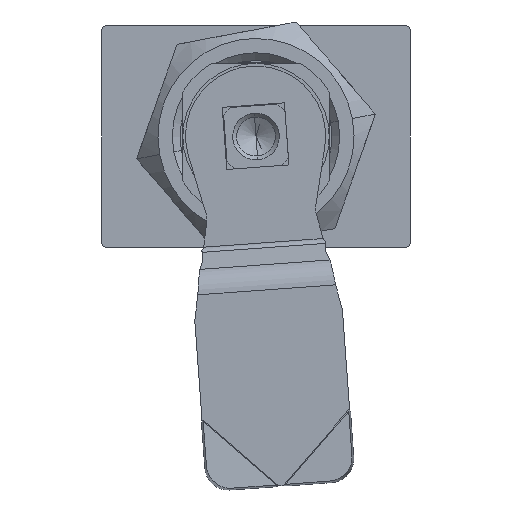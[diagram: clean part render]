
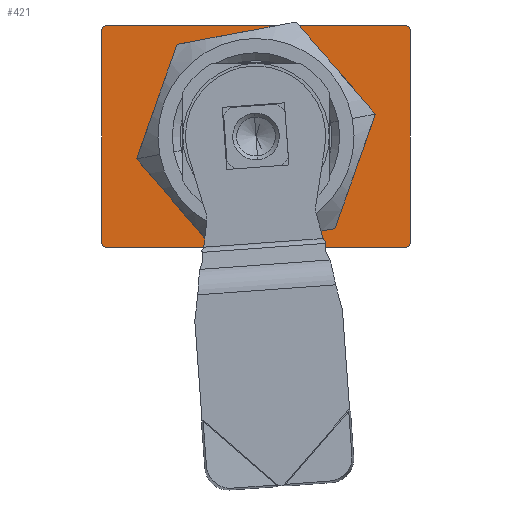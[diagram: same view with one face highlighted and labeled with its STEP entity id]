
A CAD part, front view. The second image highlights one B-rep face of the part: STEP entity #421.
In plain terms, the highlighted planar face has unit normal (0, -1, 0).
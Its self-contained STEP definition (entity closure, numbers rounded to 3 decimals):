
#401 = EDGE_CURVE ( 'NONE', #2526, #2489, #2646, .T. ) ;
#421 = ADVANCED_FACE ( 'NONE', ( #2677, #2671 ), #2670, .F. ) ;
#422 = EDGE_LOOP ( 'NONE', ( #423, #424, #425, #426, #427, #428, #429, #430 ) ) ;
#423 = ORIENTED_EDGE ( 'NONE', *, *, #2525, .F. ) ;
#424 = ORIENTED_EDGE ( 'NONE', *, *, #436, .F. ) ;
#425 = ORIENTED_EDGE ( 'NONE', *, *, #2450, .F. ) ;
#426 = ORIENTED_EDGE ( 'NONE', *, *, #450, .F. ) ;
#427 = ORIENTED_EDGE ( 'NONE', *, *, #2463, .F. ) ;
#428 = ORIENTED_EDGE ( 'NONE', *, *, #444, .F. ) ;
#429 = ORIENTED_EDGE ( 'NONE', *, *, #2518, .F. ) ;
#430 = ORIENTED_EDGE ( 'NONE', *, *, #441, .F. ) ;
#431 = EDGE_LOOP ( 'NONE', ( #491, #492, #493, #494, #495, #496, #497, #498 ) ) ;
#436 = EDGE_CURVE ( 'NONE', #2451, #2448, #2727, .T. ) ;
#441 = EDGE_CURVE ( 'NONE', #2499, #2516, #2722, .T. ) ;
#444 = EDGE_CURVE ( 'NONE', #2519, #2409, #2713, .T. ) ;
#450 = EDGE_CURVE ( 'NONE', #2464, #2475, #2708, .T. ) ;
#491 = ORIENTED_EDGE ( 'NONE', *, *, #2600, .F. ) ;
#492 = ORIENTED_EDGE ( 'NONE', *, *, #2590, .F. ) ;
#493 = ORIENTED_EDGE ( 'NONE', *, *, #2532, .F. ) ;
#494 = ORIENTED_EDGE ( 'NONE', *, *, #2548, .F. ) ;
#495 = ORIENTED_EDGE ( 'NONE', *, *, #2565, .F. ) ;
#496 = ORIENTED_EDGE ( 'NONE', *, *, #2555, .F. ) ;
#497 = ORIENTED_EDGE ( 'NONE', *, *, #2491, .F. ) ;
#498 = ORIENTED_EDGE ( 'NONE', *, *, #401, .F. ) ;
#2409 = VERTEX_POINT ( 'NONE', #7072 ) ;
#2448 = VERTEX_POINT ( 'NONE', #7150 ) ;
#2450 = EDGE_CURVE ( 'NONE', #2475, #2451, #7149, .T. ) ;
#2451 = VERTEX_POINT ( 'NONE', #7144 ) ;
#2463 = EDGE_CURVE ( 'NONE', #2409, #2464, #7184, .T. ) ;
#2464 = VERTEX_POINT ( 'NONE', #7179 ) ;
#2475 = VERTEX_POINT ( 'NONE', #7160 ) ;
#2489 = VERTEX_POINT ( 'NONE', #7265 ) ;
#2491 = EDGE_CURVE ( 'NONE', #2489, #2492, #7264, .T. ) ;
#2492 = VERTEX_POINT ( 'NONE', #7260 ) ;
#2499 = VERTEX_POINT ( 'NONE', #7286 ) ;
#2516 = VERTEX_POINT ( 'NONE', #7339 ) ;
#2518 = EDGE_CURVE ( 'NONE', #2516, #2519, #7338, .T. ) ;
#2519 = VERTEX_POINT ( 'NONE', #7333 ) ;
#2525 = EDGE_CURVE ( 'NONE', #2448, #2499, #7327, .T. ) ;
#2526 = VERTEX_POINT ( 'NONE', #7317 ) ;
#2532 = EDGE_CURVE ( 'NONE', #2549, #2533, #7371, .T. ) ;
#2533 = VERTEX_POINT ( 'NONE', #7367 ) ;
#2548 = EDGE_CURVE ( 'NONE', #2566, #2549, #7350, .T. ) ;
#2549 = VERTEX_POINT ( 'NONE', #7345 ) ;
#2555 = EDGE_CURVE ( 'NONE', #2492, #2556, #7398, .T. ) ;
#2556 = VERTEX_POINT ( 'NONE', #7393 ) ;
#2565 = EDGE_CURVE ( 'NONE', #2556, #2566, #7382, .T. ) ;
#2566 = VERTEX_POINT ( 'NONE', #7378 ) ;
#2590 = EDGE_CURVE ( 'NONE', #2533, #2591, #7418, .T. ) ;
#2591 = VERTEX_POINT ( 'NONE', #7413 ) ;
#2600 = EDGE_CURVE ( 'NONE', #2591, #2526, #7469, .T. ) ;
#2637 = DIRECTION ( 'NONE',  ( -1., 0., 0. ) ) ;
#2638 = DIRECTION ( 'NONE',  ( 0., -1., 0. ) ) ;
#2639 = CARTESIAN_POINT ( 'NONE',  ( 0., -1.44, 14. ) ) ;
#2640 = AXIS2_PLACEMENT_3D ( 'NONE', #2639, #2638, #2637 ) ;
#2646 = CIRCLE ( 'NONE', #2640, 11. ) ;
#2667 = DIRECTION ( 'NONE',  ( 0., 1., 0. ) ) ;
#2668 = AXIS2_PLACEMENT_3D ( 'NONE', #2669, #2667, #2728 ) ;
#2669 = CARTESIAN_POINT ( 'NONE',  ( 19.793, -1.44, 28.21 ) ) ;
#2670 = PLANE ( 'NONE',  #2668 ) ;
#2671 = FACE_BOUND ( 'NONE', #431, .T. ) ;
#2677 = FACE_OUTER_BOUND ( 'NONE', #422, .T. ) ;
#2700 = DIRECTION ( 'NONE',  ( -1., 0., 0. ) ) ;
#2701 = VECTOR ( 'NONE', #2700, 1000. ) ;
#2702 = CARTESIAN_POINT ( 'NONE',  ( 19.793, -1.44, -0.21 ) ) ;
#2708 = LINE ( 'NONE', #2702, #2701 ) ;
#2710 = DIRECTION ( 'NONE',  ( 0., 0., -1. ) ) ;
#2711 = VECTOR ( 'NONE', #2710, 1000. ) ;
#2712 = CARTESIAN_POINT ( 'NONE',  ( 19.793, -1.44, 28.21 ) ) ;
#2713 = LINE ( 'NONE', #2712, #2711 ) ;
#2714 = DIRECTION ( 'NONE',  ( 1., 0., 0. ) ) ;
#2715 = VECTOR ( 'NONE', #2714, 1000. ) ;
#2716 = CARTESIAN_POINT ( 'NONE',  ( 19.793, -1.44, 28.21 ) ) ;
#2722 = LINE ( 'NONE', #2716, #2715 ) ;
#2724 = DIRECTION ( 'NONE',  ( 0., 0., 1. ) ) ;
#2725 = VECTOR ( 'NONE', #2724, 1000. ) ;
#2726 = CARTESIAN_POINT ( 'NONE',  ( -19.792, -1.44, 28.21 ) ) ;
#2727 = LINE ( 'NONE', #2726, #2725 ) ;
#2728 = DIRECTION ( 'NONE',  ( -1., 0., 0. ) ) ;
#7072 = CARTESIAN_POINT ( 'NONE',  ( 19.793, -1.44, 0.298 ) ) ;
#7144 = CARTESIAN_POINT ( 'NONE',  ( -19.792, -1.44, 0.298 ) ) ;
#7145 = DIRECTION ( 'NONE',  ( 0., 0., 1. ) ) ;
#7146 = DIRECTION ( 'NONE',  ( 0., 1., 0. ) ) ;
#7147 = CARTESIAN_POINT ( 'NONE',  ( -19.285, -1.44, 0.298 ) ) ;
#7148 = AXIS2_PLACEMENT_3D ( 'NONE', #7147, #7146, #7145 ) ;
#7149 = CIRCLE ( 'NONE', #7148, 0.507 ) ;
#7150 = CARTESIAN_POINT ( 'NONE',  ( -19.792, -1.44, 27.703 ) ) ;
#7160 = CARTESIAN_POINT ( 'NONE',  ( -19.285, -1.44, -0.21 ) ) ;
#7179 = CARTESIAN_POINT ( 'NONE',  ( 19.285, -1.44, -0.21 ) ) ;
#7180 = DIRECTION ( 'NONE',  ( 0., 0., -1. ) ) ;
#7181 = DIRECTION ( 'NONE',  ( 0., 1., 0. ) ) ;
#7182 = CARTESIAN_POINT ( 'NONE',  ( 19.285, -1.44, 0.298 ) ) ;
#7183 = AXIS2_PLACEMENT_3D ( 'NONE', #7182, #7181, #7180 ) ;
#7184 = CIRCLE ( 'NONE', #7183, 0.507 ) ;
#7260 = CARTESIAN_POINT ( 'NONE',  ( -9.4, -1.44, 8.287 ) ) ;
#7261 = DIRECTION ( 'NONE',  ( 0., 0., -1. ) ) ;
#7262 = VECTOR ( 'NONE', #7261, 1000. ) ;
#7263 = CARTESIAN_POINT ( 'NONE',  ( -9.4, -1.44, 28.21 ) ) ;
#7264 = LINE ( 'NONE', #7263, #7262 ) ;
#7265 = CARTESIAN_POINT ( 'NONE',  ( -9.4, -1.44, 19.713 ) ) ;
#7286 = CARTESIAN_POINT ( 'NONE',  ( -19.285, -1.44, 28.21 ) ) ;
#7317 = CARTESIAN_POINT ( 'NONE',  ( -5.713, -1.44, 23.4 ) ) ;
#7318 = DIRECTION ( 'NONE',  ( 0., 0., -1. ) ) ;
#7319 = DIRECTION ( 'NONE',  ( 0., 1., 0. ) ) ;
#7320 = CARTESIAN_POINT ( 'NONE',  ( -19.285, -1.44, 27.703 ) ) ;
#7321 = AXIS2_PLACEMENT_3D ( 'NONE', #7320, #7319, #7318 ) ;
#7327 = CIRCLE ( 'NONE', #7321, 0.508 ) ;
#7333 = CARTESIAN_POINT ( 'NONE',  ( 19.793, -1.44, 27.703 ) ) ;
#7334 = DIRECTION ( 'NONE',  ( 0., 0., 1. ) ) ;
#7335 = DIRECTION ( 'NONE',  ( 0., 1., 0. ) ) ;
#7336 = CARTESIAN_POINT ( 'NONE',  ( 19.285, -1.44, 27.703 ) ) ;
#7337 = AXIS2_PLACEMENT_3D ( 'NONE', #7336, #7335, #7334 ) ;
#7338 = CIRCLE ( 'NONE', #7337, 0.508 ) ;
#7339 = CARTESIAN_POINT ( 'NONE',  ( 19.285, -1.44, 28.21 ) ) ;
#7341 = DIRECTION ( 'NONE',  ( -1., 0., 0. ) ) ;
#7342 = DIRECTION ( 'NONE',  ( 0., -1., 0. ) ) ;
#7343 = CARTESIAN_POINT ( 'NONE',  ( 0., -1.44, 14. ) ) ;
#7344 = AXIS2_PLACEMENT_3D ( 'NONE', #7343, #7342, #7341 ) ;
#7345 = CARTESIAN_POINT ( 'NONE',  ( 9.4, -1.44, 8.287 ) ) ;
#7350 = CIRCLE ( 'NONE', #7344, 11. ) ;
#7367 = CARTESIAN_POINT ( 'NONE',  ( 9.4, -1.44, 19.713 ) ) ;
#7368 = DIRECTION ( 'NONE',  ( 0., 0., 1. ) ) ;
#7369 = VECTOR ( 'NONE', #7368, 1000. ) ;
#7370 = CARTESIAN_POINT ( 'NONE',  ( 9.4, -1.44, 28.21 ) ) ;
#7371 = LINE ( 'NONE', #7370, #7369 ) ;
#7378 = CARTESIAN_POINT ( 'NONE',  ( 5.713, -1.44, 4.6 ) ) ;
#7379 = DIRECTION ( 'NONE',  ( 1., 0., 0. ) ) ;
#7380 = VECTOR ( 'NONE', #7379, 1000. ) ;
#7381 = CARTESIAN_POINT ( 'NONE',  ( 19.793, -1.44, 4.6 ) ) ;
#7382 = LINE ( 'NONE', #7381, #7380 ) ;
#7393 = CARTESIAN_POINT ( 'NONE',  ( -5.713, -1.44, 4.6 ) ) ;
#7394 = DIRECTION ( 'NONE',  ( -1., 0., 0. ) ) ;
#7395 = DIRECTION ( 'NONE',  ( 0., -1., 0. ) ) ;
#7396 = CARTESIAN_POINT ( 'NONE',  ( 0., -1.44, 14. ) ) ;
#7397 = AXIS2_PLACEMENT_3D ( 'NONE', #7396, #7395, #7394 ) ;
#7398 = CIRCLE ( 'NONE', #7397, 11. ) ;
#7413 = CARTESIAN_POINT ( 'NONE',  ( 5.713, -1.44, 23.4 ) ) ;
#7414 = DIRECTION ( 'NONE',  ( -1., 0., 0. ) ) ;
#7415 = DIRECTION ( 'NONE',  ( 0., -1., 0. ) ) ;
#7416 = CARTESIAN_POINT ( 'NONE',  ( 0., -1.44, 14. ) ) ;
#7417 = AXIS2_PLACEMENT_3D ( 'NONE', #7416, #7415, #7414 ) ;
#7418 = CIRCLE ( 'NONE', #7417, 11. ) ;
#7466 = DIRECTION ( 'NONE',  ( -1., 0., 0. ) ) ;
#7467 = VECTOR ( 'NONE', #7466, 1000. ) ;
#7468 = CARTESIAN_POINT ( 'NONE',  ( 19.793, -1.44, 23.4 ) ) ;
#7469 = LINE ( 'NONE', #7468, #7467 ) ;
